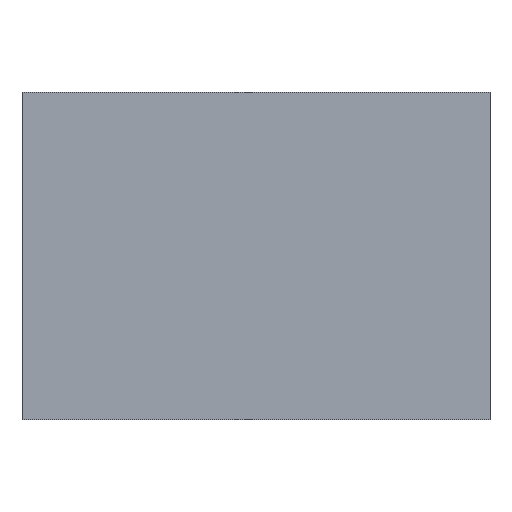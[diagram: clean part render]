
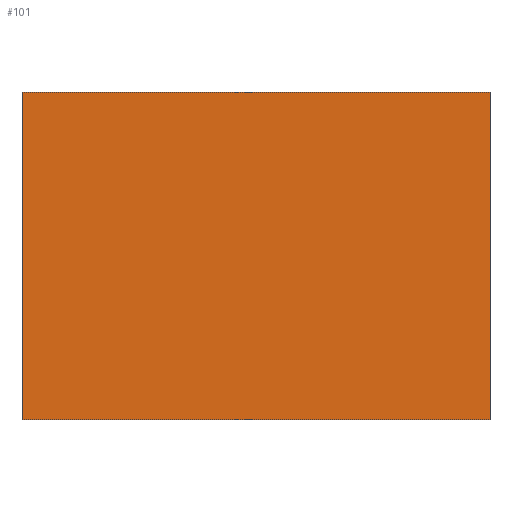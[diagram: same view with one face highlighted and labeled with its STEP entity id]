
A CAD part, front view. The second image highlights one B-rep face of the part: STEP entity #101.
In plain terms, the highlighted planar face has unit normal (0, -1, 0).
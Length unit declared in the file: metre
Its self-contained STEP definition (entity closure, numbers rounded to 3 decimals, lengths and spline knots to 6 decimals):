
#24=ORIENTED_EDGE('',*,*,#38,.F.);
#25=ORIENTED_EDGE('',*,*,#46,.T.);
#26=ORIENTED_EDGE('',*,*,#43,.T.);
#27=ORIENTED_EDGE('',*,*,#47,.F.);
#38=EDGE_CURVE('',#50,#51,#58,.T.);
#43=EDGE_CURVE('',#54,#55,#63,.T.);
#46=EDGE_CURVE('',#50,#54,#66,.T.);
#47=EDGE_CURVE('',#51,#55,#67,.T.);
#50=VERTEX_POINT('',#155);
#51=VERTEX_POINT('',#157);
#54=VERTEX_POINT('',#167);
#55=VERTEX_POINT('',#168);
#58=LINE('',#156,#70);
#63=LINE('',#166,#75);
#66=LINE('',#172,#78);
#67=LINE('',#173,#79);
#70=VECTOR('',#129,1.);
#75=VECTOR('',#138,1.);
#78=VECTOR('',#143,1.);
#79=VECTOR('',#144,1.);
#83=EDGE_LOOP('',(#24,#25,#26,#27));
#89=FACE_BOUND('',#83,.T.);
#95=PLANE('',#120);
#101=ADVANCED_FACE('',(#89),#95,.T.);
#120=AXIS2_PLACEMENT_3D('',#171,#141,#142);
#129=DIRECTION('',(0.,0.,-1.));
#138=DIRECTION('',(0.,0.,-1.));
#141=DIRECTION('',(0.,-1.,0.));
#142=DIRECTION('',(1.,0.,0.));
#143=DIRECTION('',(-1.,0.,0.));
#144=DIRECTION('',(-1.,0.,0.));
#155=CARTESIAN_POINT('',(-0.00525,0.0049,0.00085));
#156=CARTESIAN_POINT('',(-0.00525,0.0049,0.001389));
#157=CARTESIAN_POINT('',(-0.00525,0.0049,0.0005));
#166=CARTESIAN_POINT('',(-0.00575,0.0049,0.001389));
#167=CARTESIAN_POINT('',(-0.00575,0.0049,0.00085));
#168=CARTESIAN_POINT('',(-0.00575,0.0049,0.0005));
#171=CARTESIAN_POINT('',(-0.00525,0.0049,0.001389));
#172=CARTESIAN_POINT('',(-0.00525,0.0049,0.00085));
#173=CARTESIAN_POINT('',(-0.00525,0.0049,0.0005));
